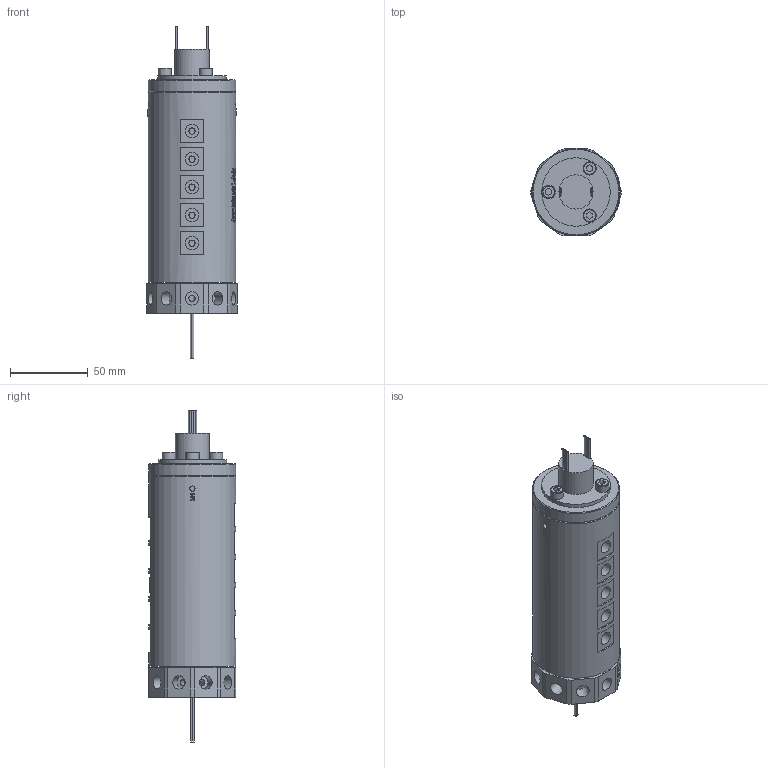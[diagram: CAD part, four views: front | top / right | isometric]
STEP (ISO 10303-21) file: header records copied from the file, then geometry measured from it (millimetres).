
FILE_DESCRIPTION(/* description */ (''),/* implementation_level */ '2;1');
FILE_NAME(/* name */ 'HQ1001-12M.stp',/* time_stamp */ '2025-02-14T12:00:54+08:00',/* author */ (''),/* organization */ (''),/* preprocessor_version */ 'ST-DEVELOPER v16.7',/* originating_system */ 'SIEMENS PLM Software NX 12.0',/* authorisation */ '');
FILE_SCHEMA (('AUTOMOTIVE_DESIGN { 1 0 10303 214 3 1 1 1 }'));
Length unit declared in the file: millimetre
Products named in the file (1): HX0540E8A2D8ngk9
Bounding box: 57.99 x 56.5 x 213.3 mm (x, y, z)
Volume: 358541.7 mm3; surface area: 54741.3 mm2
Topology: 1 solids, 4 shells, 1210 faces, 3149 edges, 2124 vertices
Faces by surface type: plane 541, extrusion 485, cylinder 144, bspline 30, cone 7, torus 3
Full cylindrical faces by diameter (mm): 0.8 x16, 3.4 x6, 4 x30, 4.1 x10, 4.2 x10, 5 x3, 5.5 x3, 7.8 x1, 8 x1, 8.5 x23, 22 x1, 34 x1, 44 x1, 56 x2
Entity records: 42962 total; most frequent: CARTESIAN_POINT 17540, ORIENTED_EDGE 5884, DIRECTION 3372, EDGE_CURVE 2942, B_SPLINE_CURVE_WITH_KNOTS 2351, VERTEX_POINT 2049, EDGE_LOOP 1515, ADVANCED_FACE 1207
